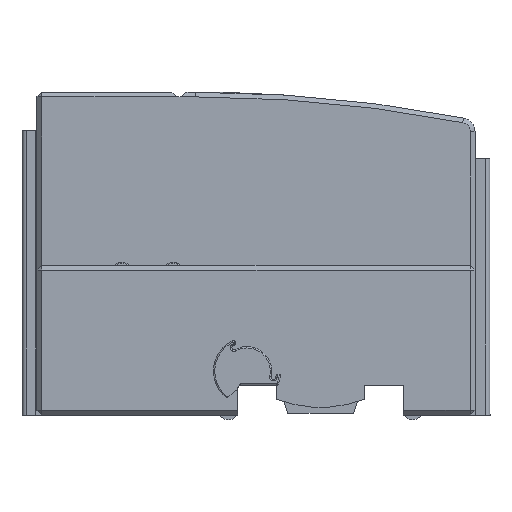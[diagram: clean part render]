
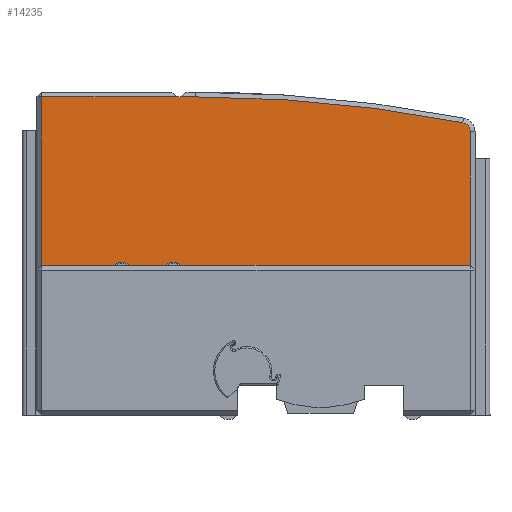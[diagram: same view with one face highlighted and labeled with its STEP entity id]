
A CAD part, left-side view. The second image highlights one B-rep face of the part: STEP entity #14235.
In plain terms, the highlighted planar face has unit normal (-1, 0, 0).
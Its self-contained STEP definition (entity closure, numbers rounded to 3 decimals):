
#653=CIRCLE('',#15231,2.);
#654=CIRCLE('',#15232,299.);
#1361=FACE_OUTER_BOUND('',#2146,.T.);
#2146=EDGE_LOOP('',(#11799,#11800,#11801,#11802,#11803,#11804,#11805,#11806));
#3602=LINE('',#23802,#5102);
#3606=LINE('',#23810,#5106);
#3607=LINE('',#23816,#5107);
#3608=LINE('',#23818,#5108);
#3609=LINE('',#23820,#5109);
#3610=LINE('',#23821,#5110);
#5102=VECTOR('',#18506,10.);
#5106=VECTOR('',#18512,10.);
#5107=VECTOR('',#18517,10.);
#5108=VECTOR('',#18518,10.);
#5109=VECTOR('',#18519,10.);
#5110=VECTOR('',#18520,10.);
#6362=VERTEX_POINT('',#23800);
#6363=VERTEX_POINT('',#23801);
#6366=VERTEX_POINT('',#23809);
#6367=VERTEX_POINT('',#23811);
#6368=VERTEX_POINT('',#23813);
#6369=VERTEX_POINT('',#23815);
#6370=VERTEX_POINT('',#23817);
#6371=VERTEX_POINT('',#23819);
#8217=EDGE_CURVE('',#6362,#6363,#3602,.T.);
#8221=EDGE_CURVE('',#6366,#6363,#3606,.T.);
#8222=EDGE_CURVE('',#6367,#6366,#653,.T.);
#8223=EDGE_CURVE('',#6368,#6367,#654,.T.);
#8224=EDGE_CURVE('',#6369,#6368,#3607,.T.);
#8225=EDGE_CURVE('',#6369,#6370,#3608,.T.);
#8226=EDGE_CURVE('',#6371,#6370,#3609,.T.);
#8227=EDGE_CURVE('',#6362,#6371,#3610,.T.);
#11799=ORIENTED_EDGE('',*,*,#8221,.F.);
#11800=ORIENTED_EDGE('',*,*,#8222,.F.);
#11801=ORIENTED_EDGE('',*,*,#8223,.F.);
#11802=ORIENTED_EDGE('',*,*,#8224,.F.);
#11803=ORIENTED_EDGE('',*,*,#8225,.T.);
#11804=ORIENTED_EDGE('',*,*,#8226,.F.);
#11805=ORIENTED_EDGE('',*,*,#8227,.F.);
#11806=ORIENTED_EDGE('',*,*,#8217,.T.);
#12801=PLANE('',#15230);
#14235=ADVANCED_FACE('',(#1361),#12801,.F.);
#15230=AXIS2_PLACEMENT_3D('',#23808,#18510,#18511);
#15231=AXIS2_PLACEMENT_3D('',#23812,#18513,#18514);
#15232=AXIS2_PLACEMENT_3D('',#23814,#18515,#18516);
#18506=DIRECTION('',(0.,-1.,0.));
#18510=DIRECTION('center_axis',(1.,0.,0.));
#18511=DIRECTION('ref_axis',(0.,-1.,0.));
#18512=DIRECTION('',(0.,0.,-1.));
#18513=DIRECTION('center_axis',(1.,0.,0.));
#18514=DIRECTION('ref_axis',(0.,-0.772,0.636));
#18515=DIRECTION('center_axis',(1.,0.,0.));
#18516=DIRECTION('ref_axis',(0.,0.,
1.));
#18517=DIRECTION('',(0.,-1.,0.));
#18518=DIRECTION('',(0.,1.,0.));
#18519=DIRECTION('',(0.,-1.,0.));
#18520=DIRECTION('',(0.,0.,1.));
#23800=CARTESIAN_POINT('',(-16.,59.6,25.6));
#23801=CARTESIAN_POINT('',(-16.,-32.,25.6));
#23802=CARTESIAN_POINT('',(-16.,37.205,25.6));
#23808=CARTESIAN_POINT('Origin',(-16.,53.2,43.6));
#23809=CARTESIAN_POINT('',(-16.,-32.,54.138));
#23810=CARTESIAN_POINT('',(-16.,-32.,9.754));
#23811=CARTESIAN_POINT('',(-16.,-30.382,56.101));
#23812=CARTESIAN_POINT('Origin',(-16.,-30.,54.138));
#23813=CARTESIAN_POINT('',(-16.,26.699,61.6));
#23814=CARTESIAN_POINT('Origin',(-16.,26.699,-237.4));
#23815=CARTESIAN_POINT('',(-16.,29.78,61.6));
#23816=CARTESIAN_POINT('',(-16.,20.254,61.6));
#23817=CARTESIAN_POINT('',(-16.,30.78,61.6));
#23818=CARTESIAN_POINT('',(-16.,22.295,61.6));
#23819=CARTESIAN_POINT('',(-16.,59.6,61.6));
#23820=CARTESIAN_POINT('',(-16.,20.254,61.6));
#23821=CARTESIAN_POINT('',(-16.,59.6,44.254));
